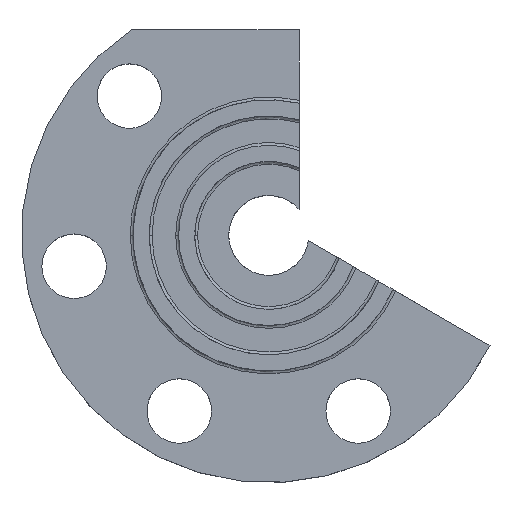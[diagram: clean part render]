
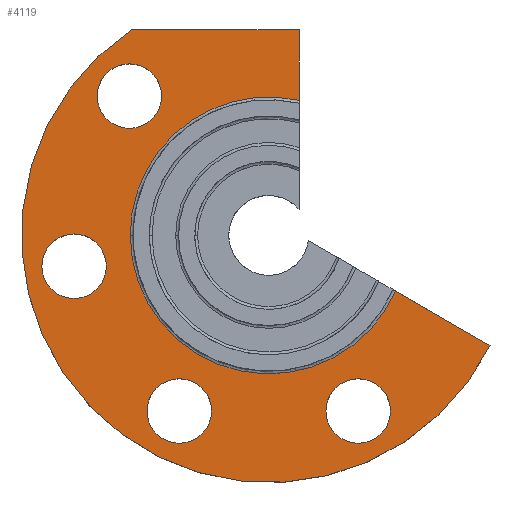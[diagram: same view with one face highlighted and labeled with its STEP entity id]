
A CAD part, top view. The second image highlights one B-rep face of the part: STEP entity #4119.
In plain terms, the highlighted planar face has unit normal (0, 0, 1).
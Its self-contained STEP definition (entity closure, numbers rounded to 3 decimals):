
#81 = ORIENTED_EDGE ( 'NONE', *, *, #1550, .F. ) ;
#188 = CARTESIAN_POINT ( 'NONE',  ( 12.485, -24.503, 0. ) ) ;
#208 = CIRCLE ( 'NONE', #1702, 19.325 ) ;
#261 = CARTESIAN_POINT ( 'NONE',  ( 7.985, -24.503, 0. ) ) ;
#340 = CIRCLE ( 'NONE', #9567, 34.5 ) ;
#396 = DIRECTION ( 'NONE',  ( 1., 0., 0. ) ) ;
#418 = AXIS2_PLACEMENT_3D ( 'NONE', #5642, #840, #8889 ) ;
#433 = CARTESIAN_POINT ( 'NONE',  ( -7.985, -24.503, 0. ) ) ;
#479 = DIRECTION ( 'NONE',  ( 0., 0., -1. ) ) ;
#485 = ORIENTED_EDGE ( 'NONE', *, *, #6054, .F. ) ;
#487 = CARTESIAN_POINT ( 'NONE',  ( -16.985, -24.503, 0. ) ) ;
#713 = CARTESIAN_POINT ( 'NONE',  ( 30.884, -15.377, 0. ) ) ;
#726 = CIRCLE ( 'NONE', #5540, 4.5 ) ;
#840 = DIRECTION ( 'NONE',  ( 0., 0., 1. ) ) ;
#855 = EDGE_LOOP ( 'NONE', ( #1753, #6881, #4942, #7633, #9534, #8540 ) ) ;
#860 = EDGE_LOOP ( 'NONE', ( #3483, #6132 ) ) ;
#1246 = VERTEX_POINT ( 'NONE', #6405 ) ;
#1477 = DIRECTION ( 'NONE',  ( -1., 0., 0. ) ) ;
#1550 = EDGE_CURVE ( 'NONE', #2336, #9232, #6660, .T. ) ;
#1622 = CIRCLE ( 'NONE', #2507, 4.5 ) ;
#1702 = AXIS2_PLACEMENT_3D ( 'NONE', #5673, #8821, #3997 ) ;
#1718 = DIRECTION ( 'NONE',  ( 1., 0., 0. ) ) ;
#1732 = LINE ( 'NONE', #6079, #7767 ) ;
#1753 = ORIENTED_EDGE ( 'NONE', *, *, #8822, .T. ) ;
#2122 = CARTESIAN_POINT ( 'NONE',  ( 17.697, -7.764, 0. ) ) ;
#2251 = CARTESIAN_POINT ( 'NONE',  ( -19.325, 0., 0. ) ) ;
#2269 = DIRECTION ( 'NONE',  ( 0., 0., 1. ) ) ;
#2336 = VERTEX_POINT ( 'NONE', #261 ) ;
#2362 = CIRCLE ( 'NONE', #3186, 4.5 ) ;
#2507 = AXIS2_PLACEMENT_3D ( 'NONE', #3547, #7678, #6897 ) ;
#2607 = DIRECTION ( 'NONE',  ( 1., 0., 0. ) ) ;
#3088 = VERTEX_POINT ( 'NONE', #487 ) ;
#3156 = DIRECTION ( 'NONE',  ( 0., 0., 1. ) ) ;
#3168 = DIRECTION ( 'NONE',  ( 1., 0., 0. ) ) ;
#3186 = AXIS2_PLACEMENT_3D ( 'NONE', #8480, #5183, #396 ) ;
#3354 = CARTESIAN_POINT ( 'NONE',  ( -14.945, 19.445, 0. ) ) ;
#3388 = AXIS2_PLACEMENT_3D ( 'NONE', #3827, #3156, #10353 ) ;
#3415 = EDGE_CURVE ( 'NONE', #6012, #1246, #1622, .T. ) ;
#3474 = EDGE_LOOP ( 'NONE', ( #4488, #6270 ) ) ;
#3483 = ORIENTED_EDGE ( 'NONE', *, *, #6199, .F. ) ;
#3547 = CARTESIAN_POINT ( 'NONE',  ( -27.161, -4.302, 0. ) ) ;
#3650 = CARTESIAN_POINT ( 'NONE',  ( -12.485, -24.503, 0. ) ) ;
#3737 = PLANE ( 'NONE',  #4389 ) ;
#3740 = VECTOR ( 'NONE', #7649, 1000. ) ;
#3792 = CARTESIAN_POINT ( 'NONE',  ( -12.485, -24.503, 0. ) ) ;
#3827 = CARTESIAN_POINT ( 'NONE',  ( -19.445, 19.445, 0. ) ) ;
#3870 = EDGE_LOOP ( 'NONE', ( #4454, #3880 ) ) ;
#3880 = ORIENTED_EDGE ( 'NONE', *, *, #3415, .F. ) ;
#3983 = CARTESIAN_POINT ( 'NONE',  ( 0., 0., 0. ) ) ;
#3997 = DIRECTION ( 'NONE',  ( -1., 0., 0. ) ) ;
#4119 = ADVANCED_FACE ( 'NONE', ( #7280, #4613, #5493, #5113, #10154 ), #3737, .F. ) ;
#4357 = DIRECTION ( 'NONE',  ( 0., 1., 0. ) ) ;
#4389 = AXIS2_PLACEMENT_3D ( 'NONE', #6169, #479, #7008 ) ;
#4454 = ORIENTED_EDGE ( 'NONE', *, *, #9544, .F. ) ;
#4488 = ORIENTED_EDGE ( 'NONE', *, *, #9209, .F. ) ;
#4587 = CARTESIAN_POINT ( 'NONE',  ( 4.25, 28.7, 0. ) ) ;
#4613 = FACE_BOUND ( 'NONE', #860, .T. ) ;
#4625 = DIRECTION ( 'NONE',  ( 1., 0., 0. ) ) ;
#4942 = ORIENTED_EDGE ( 'NONE', *, *, #9090, .T. ) ;
#4953 = EDGE_CURVE ( 'NONE', #7126, #9863, #7012, .T. ) ;
#4957 = CIRCLE ( 'NONE', #418, 4.5 ) ;
#5013 = CARTESIAN_POINT ( 'NONE',  ( 0., 28.7, 0. ) ) ;
#5021 = EDGE_CURVE ( 'NONE', #10383, #10015, #6131, .T. ) ;
#5113 = FACE_BOUND ( 'NONE', #3474, .T. ) ;
#5121 = DIRECTION ( 'NONE',  ( 1., 0., 0. ) ) ;
#5183 = DIRECTION ( 'NONE',  ( 0., 0., 1. ) ) ;
#5428 = DIRECTION ( 'NONE',  ( 0., 0., 1. ) ) ;
#5441 = EDGE_CURVE ( 'NONE', #3088, #7370, #8398, .T. ) ;
#5476 = VERTEX_POINT ( 'NONE', #2251 ) ;
#5493 = FACE_BOUND ( 'NONE', #3870, .T. ) ;
#5540 = AXIS2_PLACEMENT_3D ( 'NONE', #3650, #9281, #5121 ) ;
#5572 = VERTEX_POINT ( 'NONE', #7035 ) ;
#5642 = CARTESIAN_POINT ( 'NONE',  ( -19.445, 19.445, 0. ) ) ;
#5673 = CARTESIAN_POINT ( 'NONE',  ( 0., 0., 0. ) ) ;
#6012 = VERTEX_POINT ( 'NONE', #9148 ) ;
#6054 = EDGE_CURVE ( 'NONE', #9232, #2336, #2362, .T. ) ;
#6079 = CARTESIAN_POINT ( 'NONE',  ( 4.25, 18.925, 0. ) ) ;
#6131 = LINE ( 'NONE', #5013, #7522 ) ;
#6132 = ORIENTED_EDGE ( 'NONE', *, *, #5441, .F. ) ;
#6169 = CARTESIAN_POINT ( 'NONE',  ( 0., 18.925, 0. ) ) ;
#6199 = EDGE_CURVE ( 'NONE', #7370, #3088, #726, .T. ) ;
#6206 = AXIS2_PLACEMENT_3D ( 'NONE', #6592, #8251, #1718 ) ;
#6270 = ORIENTED_EDGE ( 'NONE', *, *, #7081, .F. ) ;
#6293 = DIRECTION ( 'NONE',  ( 0., 0., -1. ) ) ;
#6320 = EDGE_CURVE ( 'NONE', #5572, #10015, #1732, .T. ) ;
#6405 = CARTESIAN_POINT ( 'NONE',  ( -22.661, -4.302, 0. ) ) ;
#6592 = CARTESIAN_POINT ( 'NONE',  ( -27.161, -4.302, 0. ) ) ;
#6660 = CIRCLE ( 'NONE', #7362, 4.5 ) ;
#6741 = AXIS2_PLACEMENT_3D ( 'NONE', #8650, #6293, #1477 ) ;
#6881 = ORIENTED_EDGE ( 'NONE', *, *, #4953, .T. ) ;
#6897 = DIRECTION ( 'NONE',  ( 1., 0., 0. ) ) ;
#7008 = DIRECTION ( 'NONE',  ( -1., 0., 0. ) ) ;
#7012 = LINE ( 'NONE', #8354, #3740 ) ;
#7035 = CARTESIAN_POINT ( 'NONE',  ( 4.25, 18.852, 0. ) ) ;
#7081 = EDGE_CURVE ( 'NONE', #7351, #9277, #8267, .T. ) ;
#7126 = VERTEX_POINT ( 'NONE', #713 ) ;
#7247 = CIRCLE ( 'NONE', #6741, 19.325 ) ;
#7280 = FACE_OUTER_BOUND ( 'NONE', #855, .T. ) ;
#7351 = VERTEX_POINT ( 'NONE', #8197 ) ;
#7362 = AXIS2_PLACEMENT_3D ( 'NONE', #188, #9692, #8170 ) ;
#7370 = VERTEX_POINT ( 'NONE', #433 ) ;
#7441 = AXIS2_PLACEMENT_3D ( 'NONE', #3792, #5428, #4625 ) ;
#7522 = VECTOR ( 'NONE', #2607, 1000. ) ;
#7633 = ORIENTED_EDGE ( 'NONE', *, *, #9957, .T. ) ;
#7649 = DIRECTION ( 'NONE',  ( -0.866, 0.5, 0. ) ) ;
#7678 = DIRECTION ( 'NONE',  ( 0., 0., 1. ) ) ;
#7700 = CARTESIAN_POINT ( 'NONE',  ( -19.146, 28.7, 0. ) ) ;
#7767 = VECTOR ( 'NONE', #4357, 1000. ) ;
#8170 = DIRECTION ( 'NONE',  ( 1., 0., 0. ) ) ;
#8197 = CARTESIAN_POINT ( 'NONE',  ( -23.945, 19.445, 0. ) ) ;
#8251 = DIRECTION ( 'NONE',  ( 0., 0., 1. ) ) ;
#8267 = CIRCLE ( 'NONE', #3388, 4.5 ) ;
#8354 = CARTESIAN_POINT ( 'NONE',  ( -7.132, 6.572, 0. ) ) ;
#8398 = CIRCLE ( 'NONE', #7441, 4.5 ) ;
#8480 = CARTESIAN_POINT ( 'NONE',  ( 12.485, -24.503, 0. ) ) ;
#8540 = ORIENTED_EDGE ( 'NONE', *, *, #5021, .F. ) ;
#8650 = CARTESIAN_POINT ( 'NONE',  ( 0., 0., 0. ) ) ;
#8821 = DIRECTION ( 'NONE',  ( 0., 0., -1. ) ) ;
#8822 = EDGE_CURVE ( 'NONE', #10383, #7126, #340, .T. ) ;
#8889 = DIRECTION ( 'NONE',  ( 1., 0., 0. ) ) ;
#8926 = CARTESIAN_POINT ( 'NONE',  ( 16.985, -24.503, 0. ) ) ;
#9090 = EDGE_CURVE ( 'NONE', #9863, #5476, #208, .T. ) ;
#9148 = CARTESIAN_POINT ( 'NONE',  ( -31.661, -4.302, 0. ) ) ;
#9209 = EDGE_CURVE ( 'NONE', #9277, #7351, #4957, .T. ) ;
#9232 = VERTEX_POINT ( 'NONE', #8926 ) ;
#9277 = VERTEX_POINT ( 'NONE', #3354 ) ;
#9281 = DIRECTION ( 'NONE',  ( 0., 0., 1. ) ) ;
#9534 = ORIENTED_EDGE ( 'NONE', *, *, #6320, .T. ) ;
#9544 = EDGE_CURVE ( 'NONE', #1246, #6012, #9876, .T. ) ;
#9567 = AXIS2_PLACEMENT_3D ( 'NONE', #3983, #2269, #3168 ) ;
#9692 = DIRECTION ( 'NONE',  ( 0., 0., 1. ) ) ;
#9780 = EDGE_LOOP ( 'NONE', ( #485, #81 ) ) ;
#9863 = VERTEX_POINT ( 'NONE', #2122 ) ;
#9876 = CIRCLE ( 'NONE', #6206, 4.5 ) ;
#9957 = EDGE_CURVE ( 'NONE', #5476, #5572, #7247, .T. ) ;
#10015 = VERTEX_POINT ( 'NONE', #4587 ) ;
#10154 = FACE_BOUND ( 'NONE', #9780, .T. ) ;
#10353 = DIRECTION ( 'NONE',  ( 1., 0., 0. ) ) ;
#10383 = VERTEX_POINT ( 'NONE', #7700 ) ;
